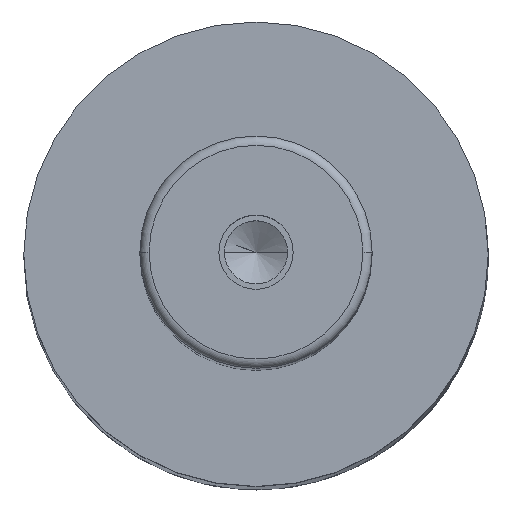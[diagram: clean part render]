
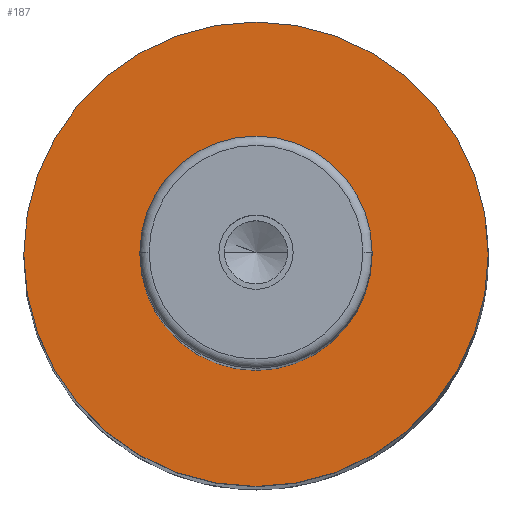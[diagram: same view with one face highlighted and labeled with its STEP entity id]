
A CAD part, top view. The second image highlights one B-rep face of the part: STEP entity #187.
In plain terms, the highlighted planar face has unit normal (0, 0, 1).
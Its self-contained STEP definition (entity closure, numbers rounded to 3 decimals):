
#109=PLANE('',#1002);
#132=FACE_BOUND('',#299,.T.);
#133=FACE_BOUND('',#300,.T.);
#187=ADVANCED_FACE('',(#132,#133),#109,.T.);
#299=EDGE_LOOP('',(#463,#464));
#300=EDGE_LOOP('',(#465,#466));
#367=CIRCLE('',#996,12.5);
#368=CIRCLE('',#998,12.5);
#369=CIRCLE('',#1000,25.);
#370=CIRCLE('',#1001,25.);
#463=ORIENTED_EDGE('',*,*,#766,.F.);
#464=ORIENTED_EDGE('',*,*,#767,.F.);
#465=ORIENTED_EDGE('',*,*,#765,.T.);
#466=ORIENTED_EDGE('',*,*,#763,.T.);
#676=VERTEX_POINT('',#1435);
#677=VERTEX_POINT('',#1437);
#678=VERTEX_POINT('',#1443);
#679=VERTEX_POINT('',#1444);
#763=EDGE_CURVE('',#677,#676,#367,.T.);
#765=EDGE_CURVE('',#676,#677,#368,.T.);
#766=EDGE_CURVE('',#678,#679,#369,.T.);
#767=EDGE_CURVE('',#679,#678,#370,.T.);
#996=AXIS2_PLACEMENT_3D('',#1436,#1150,#1151);
#998=AXIS2_PLACEMENT_3D('',#1440,#1155,#1156);
#1000=AXIS2_PLACEMENT_3D('',#1442,#1159,#1160);
#1001=AXIS2_PLACEMENT_3D('',#1445,#1161,#1162);
#1002=AXIS2_PLACEMENT_3D('',#1446,#1163,#1164);
#1150=DIRECTION('',(0.,0.,-1.));
#1151=DIRECTION('',(0.,1.,0.));
#1155=DIRECTION('',(0.,0.,-1.));
#1156=DIRECTION('',(0.,-1.,0.));
#1159=DIRECTION('',(0.,0.,-1.));
#1160=DIRECTION('',(0.,1.,0.));
#1161=DIRECTION('',(0.,0.,-1.));
#1162=DIRECTION('',(0.,-1.,0.));
#1163=DIRECTION('',(0.,0.,1.));
#1164=DIRECTION('',(0.,-1.,0.));
#1435=CARTESIAN_POINT('',(-12.5,0.,217.));
#1436=CARTESIAN_POINT('',(0.,0.,217.));
#1437=CARTESIAN_POINT('',(12.5,0.,217.));
#1440=CARTESIAN_POINT('',(0.,0.,217.));
#1442=CARTESIAN_POINT('',(0.,0.,217.));
#1443=CARTESIAN_POINT('',(25.,0.,217.));
#1444=CARTESIAN_POINT('',(-25.,0.,217.));
#1445=CARTESIAN_POINT('',(0.,0.,217.));
#1446=CARTESIAN_POINT('',(0.,0.,217.));
